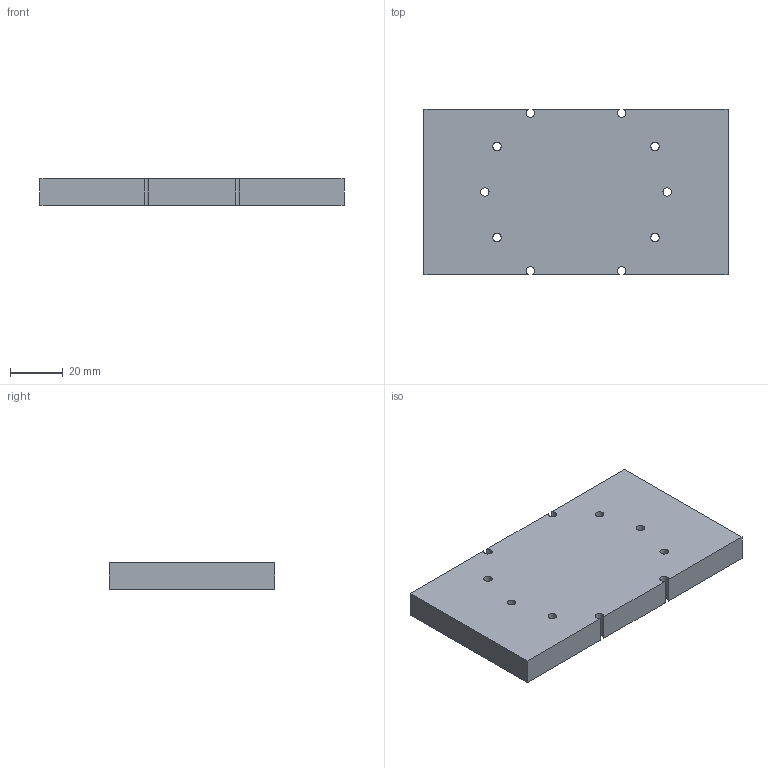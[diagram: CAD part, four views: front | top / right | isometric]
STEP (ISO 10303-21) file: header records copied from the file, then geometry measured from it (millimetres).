
FILE_DESCRIPTION(('Mechanical CAD reference from nasji.com'),'2;1');
FILE_NAME('NASJI.step','',(''),(''),'','NASJI distribution','');
FILE_SCHEMA(('AUTOMOTIVE_DESIGN { 1 0 10303 214 1 1 1 1 }'));
Length unit declared in the file: millimetre
Products named in the file (1): Open CASCADE STEP translator 7.8 101
Bounding box: 115 x 62.6 x 10 mm (x, y, z)
Volume: 71192.8 mm3; surface area: 18676.3 mm2
Topology: 1 solids, 1 shells, 20 faces, 54 edges, 36 vertices
Faces by surface type: plane 10, cylinder 10
Full cylindrical faces by diameter (mm): 3.2 x6
Entity records: 1406 total; most frequent: CARTESIAN_POINT 331, DIRECTION 192, ORIENTED_EDGE 108, PCURVE 108, DEFINITIONAL_REPRESENTATION 108, LINE 106, VECTOR 106, EDGE_CURVE 54
